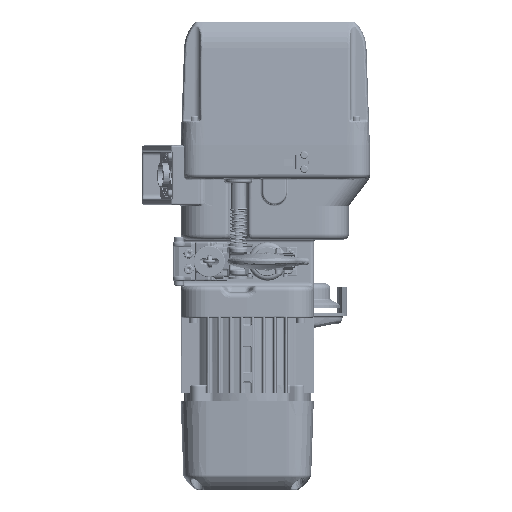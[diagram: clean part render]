
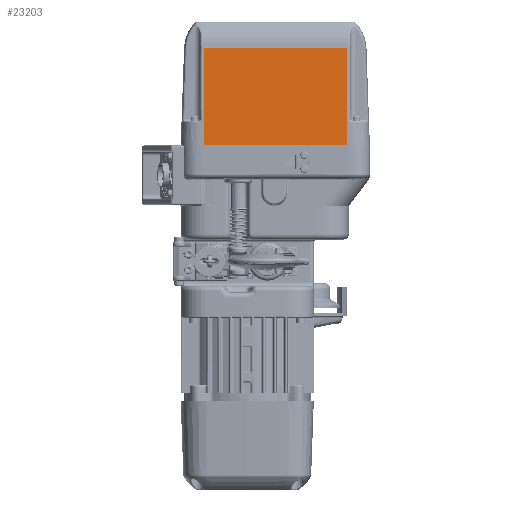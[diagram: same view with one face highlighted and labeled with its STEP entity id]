
A CAD part, front view. The second image highlights one B-rep face of the part: STEP entity #23203.
In plain terms, the highlighted planar face has unit normal (0, -0.999, 0.035).
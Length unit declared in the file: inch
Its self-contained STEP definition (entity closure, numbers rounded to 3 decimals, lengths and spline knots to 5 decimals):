
#18756 = LINE ( 'NONE', #128641, #87693 ) ;
#19138 = DIRECTION ( 'NONE',  ( 0., -0.035, -0.999 ) ) ;
#23203 = ADVANCED_FACE ( 'NONE', ( #55823 ), #117892, .T. ) ;
#32928 = DIRECTION ( 'NONE',  ( 0., -0.035, -0.999 ) ) ;
#35741 = CARTESIAN_POINT ( 'NONE',  ( 3.22231, -3.13544, 4.35172 ) ) ;
#55823 = FACE_OUTER_BOUND ( 'NONE', #114539, .T. ) ;
#58325 = EDGE_CURVE ( 'NONE', #135063, #83770, #18756, .T. ) ;
#62886 = CARTESIAN_POINT ( 'NONE',  ( 0., -3.2874, 0. ) ) ;
#66962 = CARTESIAN_POINT ( 'NONE',  ( -3.22231, -3.2874, 0. ) ) ;
#67810 = ORIENTED_EDGE ( 'NONE', *, *, #90217, .T. ) ;
#83770 = VERTEX_POINT ( 'NONE', #191612 ) ;
#85874 = LINE ( 'NONE', #146930, #186103 ) ;
#86272 = AXIS2_PLACEMENT_3D ( 'NONE', #102653, #131190, #165658 ) ;
#87693 = VECTOR ( 'NONE', #32928, 39.37008 ) ;
#90217 = EDGE_CURVE ( 'NONE', #135063, #188702, #85874, .T. ) ;
#95134 = ORIENTED_EDGE ( 'NONE', *, *, #139963, .T. ) ;
#102653 = CARTESIAN_POINT ( 'NONE',  ( 0., -3.2874, 0. ) ) ;
#114539 = EDGE_LOOP ( 'NONE', ( #67810, #95134, #127486, #154962 ) ) ;
#117892 = PLANE ( 'NONE',  #86272 ) ;
#118254 = VECTOR ( 'NONE', #187034, 39.37008 ) ;
#127486 = ORIENTED_EDGE ( 'NONE', *, *, #192794, .F. ) ;
#128641 = CARTESIAN_POINT ( 'NONE',  ( 3.22231, -3.2874, 0. ) ) ;
#131190 = DIRECTION ( 'NONE',  ( 0., -0.999, 0.035 ) ) ;
#131857 = VECTOR ( 'NONE', #19138, 39.37008 ) ;
#135063 = VERTEX_POINT ( 'NONE', #35741 ) ;
#139963 = EDGE_CURVE ( 'NONE', #188702, #159835, #172717, .T. ) ;
#140220 = LINE ( 'NONE', #62886, #118254 ) ;
#146930 = CARTESIAN_POINT ( 'NONE',  ( 3.22231, -3.13544, 4.35172 ) ) ;
#147930 = DIRECTION ( 'NONE',  ( -1., 0., 0. ) ) ;
#154962 = ORIENTED_EDGE ( 'NONE', *, *, #58325, .F. ) ;
#158350 = CARTESIAN_POINT ( 'NONE',  ( -3.22231, -3.2874, 0. ) ) ;
#159835 = VERTEX_POINT ( 'NONE', #158350 ) ;
#165658 = DIRECTION ( 'NONE',  ( 0., -0.035, -0.999 ) ) ;
#172717 = LINE ( 'NONE', #66962, #131857 ) ;
#181076 = CARTESIAN_POINT ( 'NONE',  ( -3.22231, -3.13544, 4.35172 ) ) ;
#186103 = VECTOR ( 'NONE', #147930, 39.37008 ) ;
#187034 = DIRECTION ( 'NONE',  ( -1., 0., 0. ) ) ;
#188702 = VERTEX_POINT ( 'NONE', #181076 ) ;
#191612 = CARTESIAN_POINT ( 'NONE',  ( 3.22231, -3.2874, 0. ) ) ;
#192794 = EDGE_CURVE ( 'NONE', #83770, #159835, #140220, .T. ) ;
